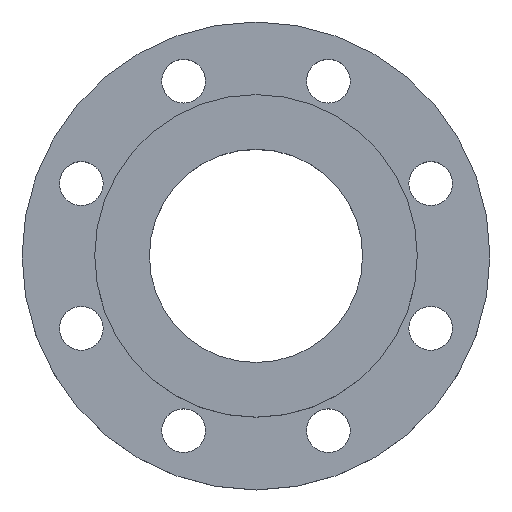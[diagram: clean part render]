
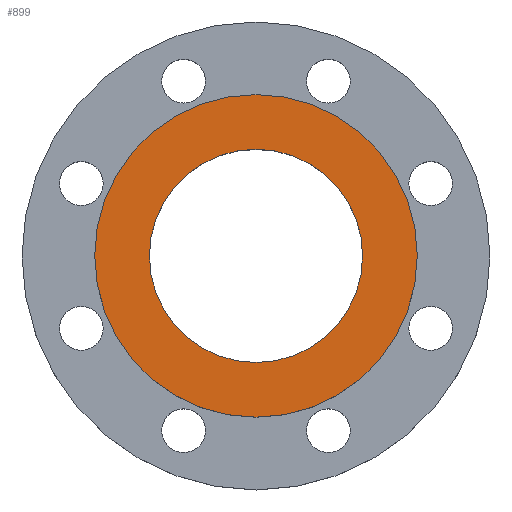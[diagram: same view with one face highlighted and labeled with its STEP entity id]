
A CAD part, top view. The second image highlights one B-rep face of the part: STEP entity #899.
In plain terms, the highlighted planar face has unit normal (0, 0, 1).
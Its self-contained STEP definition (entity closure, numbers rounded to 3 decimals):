
#28 = DIRECTION ( 'NONE',  ( 1., 0., 0. ) ) ;
#31 = DIRECTION ( 'NONE',  ( 0., 0., 1. ) ) ;
#33 = CARTESIAN_POINT ( 'NONE',  ( 0., 0., 20. ) ) ;
#49 = CARTESIAN_POINT ( 'NONE',  ( -81., 0., 20. ) ) ;
#51 = EDGE_CURVE ( 'NONE', #1038, #1096, #495, .T. ) ;
#123 = CIRCLE ( 'NONE', #665, 81. ) ;
#142 = CARTESIAN_POINT ( 'NONE',  ( 0., 0., 20. ) ) ;
#169 = CARTESIAN_POINT ( 'NONE',  ( 81., 0., 20. ) ) ;
#209 = AXIS2_PLACEMENT_3D ( 'NONE', #462, #787, #984 ) ;
#231 = AXIS2_PLACEMENT_3D ( 'NONE', #33, #31, #28 ) ;
#393 = DIRECTION ( 'NONE',  ( 0., 0., 1. ) ) ;
#397 = DIRECTION ( 'NONE',  ( 1., 0., 0. ) ) ;
#409 = DIRECTION ( 'NONE',  ( 0., 0., 1. ) ) ;
#411 = AXIS2_PLACEMENT_3D ( 'NONE', #866, #393, #397 ) ;
#462 = CARTESIAN_POINT ( 'NONE',  ( 0., 0., 20. ) ) ;
#495 = CIRCLE ( 'NONE', #411, 53.55 ) ;
#506 = FACE_BOUND ( 'NONE', #1015, .T. ) ;
#518 = CIRCLE ( 'NONE', #209, 53.55 ) ;
#610 = VERTEX_POINT ( 'NONE', #169 ) ;
#624 = DIRECTION ( 'NONE',  ( 0., 0., 1. ) ) ;
#665 = AXIS2_PLACEMENT_3D ( 'NONE', #142, #624, #895 ) ;
#676 = CARTESIAN_POINT ( 'NONE',  ( 53.55, 0., 20. ) ) ;
#691 = ORIENTED_EDGE ( 'NONE', *, *, #815, .T. ) ;
#743 = ORIENTED_EDGE ( 'NONE', *, *, #942, .T. ) ;
#754 = AXIS2_PLACEMENT_3D ( 'NONE', #1016, #409, #770 ) ;
#770 = DIRECTION ( 'NONE',  ( 1., 0., 0. ) ) ;
#787 = DIRECTION ( 'NONE',  ( 0., 0., 1. ) ) ;
#793 = VERTEX_POINT ( 'NONE', #49 ) ;
#794 = ORIENTED_EDGE ( 'NONE', *, *, #977, .F. ) ;
#795 = ORIENTED_EDGE ( 'NONE', *, *, #51, .F. ) ;
#815 = EDGE_CURVE ( 'NONE', #610, #793, #928, .T. ) ;
#816 = PLANE ( 'NONE',  #754 ) ;
#866 = CARTESIAN_POINT ( 'NONE',  ( 0., 0., 20. ) ) ;
#895 = DIRECTION ( 'NONE',  ( 1., 0., 0. ) ) ;
#899 = ADVANCED_FACE ( 'NONE', ( #1135, #506 ), #816, .T. ) ;
#928 = CIRCLE ( 'NONE', #231, 81. ) ;
#942 = EDGE_CURVE ( 'NONE', #793, #610, #123, .T. ) ;
#977 = EDGE_CURVE ( 'NONE', #1096, #1038, #518, .T. ) ;
#984 = DIRECTION ( 'NONE',  ( 1., 0., 0. ) ) ;
#992 = CARTESIAN_POINT ( 'NONE',  ( -53.55, 0., 20. ) ) ;
#1015 = EDGE_LOOP ( 'NONE', ( #794, #795 ) ) ;
#1016 = CARTESIAN_POINT ( 'NONE',  ( 53.55, 0., 20. ) ) ;
#1029 = EDGE_LOOP ( 'NONE', ( #691, #743 ) ) ;
#1038 = VERTEX_POINT ( 'NONE', #992 ) ;
#1096 = VERTEX_POINT ( 'NONE', #676 ) ;
#1135 = FACE_OUTER_BOUND ( 'NONE', #1029, .T. ) ;
